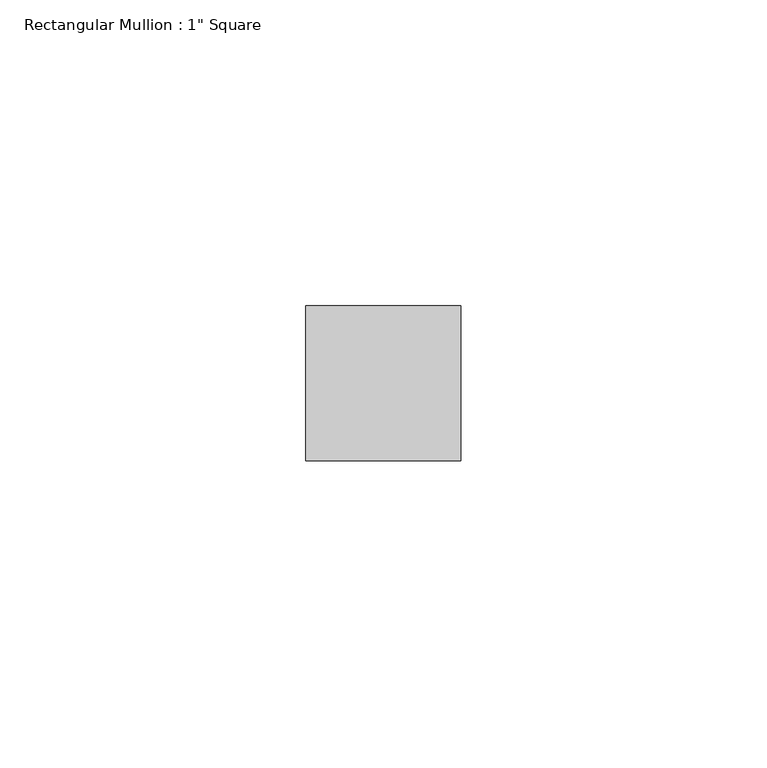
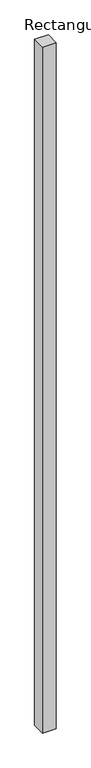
"""IFC4 building model written with IfcOpenShell, lengths in millimetres: member geometry."""

from ifc_helpers import new_model, si_unit, frame, origin, place, context, project, spatial, polyline, outline, extrude, source, transform, mapped, element, save


def member_30a298c8(model_context):
    return source(origin(), model_context, "Body", "SweptSolid", [
        extrude(outline(polyline([(12.7, 12.7), (12.7, -12.7), (-12.7, -12.7), (-12.7, 12.7), (12.7, 12.7)])), frame((0.0, 0.0, -1350.1331672), z_axis=(0.0, 0.0, 1.0), x_axis=(1.0, 0.0, 0.0)), (0.0, 0.0, 1.0), 1350.1331672),
    ])


if __name__ == "__main__":
    model = new_model("IFC4")
    model_context = context("Model", 3, world=origin())
    ifc_project = project(units=[si_unit("LENGTHUNIT", "METRE", prefix="MILLI")], contexts=[model_context])
    site = spatial("IfcSite", under=ifc_project)
    building = spatial("IfcBuilding", under=site)
    placement = place(None, origin())
    member_shape = member_30a298c8(model_context)
    element("IfcMember", 1, ObjectType="Rectangular Mullion : 1\" Square", at=placement, inside=building, context=model_context, shape_type="MappedRepresentation", body=[
        mapped(member_shape, transform((0.0, 0.0, 0.0), x_axis=(1.0, 0.0, 0.0), y_axis=(0.0, 1.0, 0.0), z_axis=(0.0, 0.0, 1.0))),
    ])
    save(model, "model.ifc")
